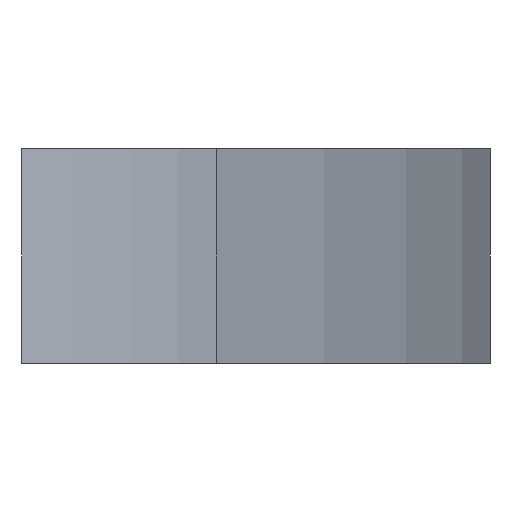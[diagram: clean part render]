
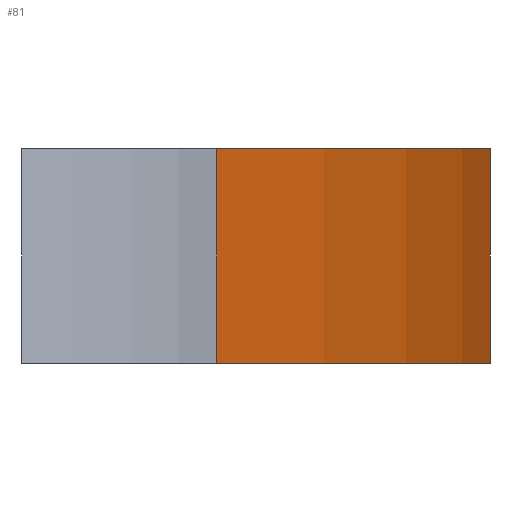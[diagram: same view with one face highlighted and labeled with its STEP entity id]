
A CAD part, left-side view. The second image highlights one B-rep face of the part: STEP entity #81.
In plain terms, the highlighted cylindrical face has radius 115 mm (diameter 230 mm), a partial arc.
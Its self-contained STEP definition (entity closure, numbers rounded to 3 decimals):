
#81 = ADVANCED_FACE( '', ( #106 ), #107, .T. );
#106 = FACE_OUTER_BOUND( '', #144, .T. );
#107 = CYLINDRICAL_SURFACE( '', #145, 115. );
#144 = EDGE_LOOP( '', ( #208, #209, #210, #211 ) );
#145 = AXIS2_PLACEMENT_3D( '', #212, #213, #214 );
#208 = ORIENTED_EDGE( '', *, *, #320, .T. );
#209 = ORIENTED_EDGE( '', *, *, #321, .F. );
#210 = ORIENTED_EDGE( '', *, *, #322, .F. );
#211 = ORIENTED_EDGE( '', *, *, #323, .T. );
#212 = CARTESIAN_POINT( '', ( 64., 82., 7.5 ) );
#213 = DIRECTION( '', ( 0., 0., 1. ) );
#214 = DIRECTION( '', ( -0.556, -0.831, 0. ) );
#320 = EDGE_CURVE( '', #370, #371, #372, .T. );
#321 = EDGE_CURVE( '', #373, #371, #374, .T. );
#322 = EDGE_CURVE( '', #375, #373, #376, .T. );
#323 = EDGE_CURVE( '', #375, #370, #377, .T. );
#370 = VERTEX_POINT( '', #444 );
#371 = VERTEX_POINT( '', #445 );
#372 = CIRCLE( '', #446, 115. );
#373 = VERTEX_POINT( '', #447 );
#374 = LINE( '', #448, #449 );
#375 = VERTEX_POINT( '', #450 );
#376 = CIRCLE( '', #451, 115. );
#377 = LINE( '', #452, #453 );
#444 = CARTESIAN_POINT( '', ( 0.111, -13.62, -7.5 ) );
#445 = CARTESIAN_POINT( '', ( 127.889, -13.62, -7.5 ) );
#446 = AXIS2_PLACEMENT_3D( '', #540, #541, #542 );
#447 = CARTESIAN_POINT( '', ( 127.889, -13.62, 7.5 ) );
#448 = CARTESIAN_POINT( '', ( 127.889, -13.62, 7.5 ) );
#449 = VECTOR( '', #543, 1. );
#450 = CARTESIAN_POINT( '', ( 0.111, -13.62, 7.5 ) );
#451 = AXIS2_PLACEMENT_3D( '', #544, #545, #546 );
#452 = CARTESIAN_POINT( '', ( 0.111, -13.62, 7.5 ) );
#453 = VECTOR( '', #547, 1. );
#540 = CARTESIAN_POINT( '', ( 64., 82., -7.5 ) );
#541 = DIRECTION( '', ( 0., 0., 1. ) );
#542 = DIRECTION( '', ( -0.556, -0.831, 0. ) );
#543 = DIRECTION( '', ( 0., 0., -1. ) );
#544 = CARTESIAN_POINT( '', ( 64., 82., 7.5 ) );
#545 = DIRECTION( '', ( 0., 0., 1. ) );
#546 = DIRECTION( '', ( -0.556, -0.831, 0. ) );
#547 = DIRECTION( '', ( 0., 0., -1. ) );
